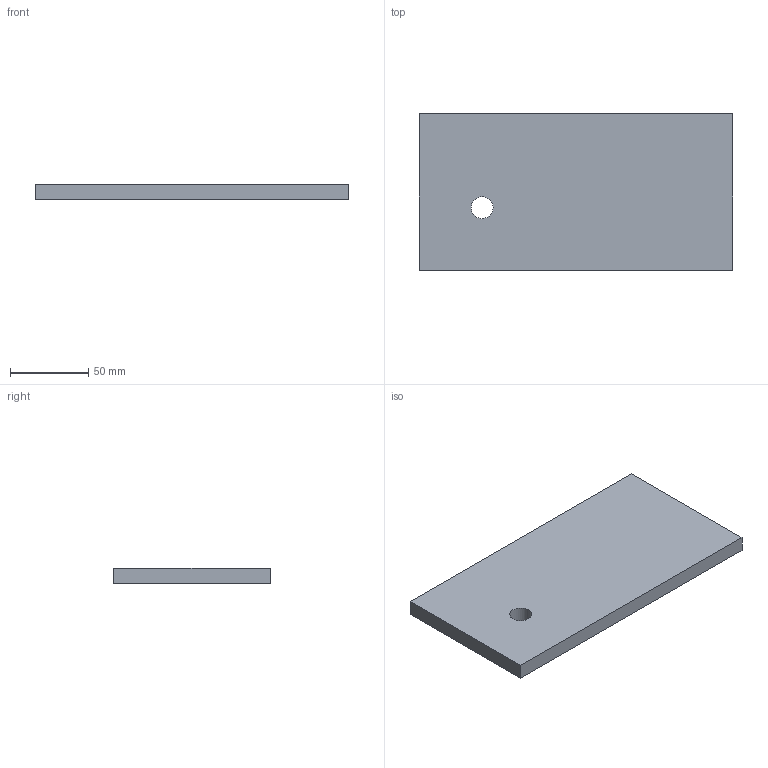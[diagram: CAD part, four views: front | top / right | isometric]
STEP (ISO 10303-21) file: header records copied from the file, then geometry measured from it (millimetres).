
FILE_DESCRIPTION(('Open CASCADE Model'),'2;1');
FILE_NAME('Open CASCADE Shape Model','2026-09-12T13:44:07',('Author'),( 'Open CASCADE'),'Open CASCADE STEP processor 7.9','Open CASCADE 7.9' ,'Unknown');
FILE_SCHEMA(('AUTOMOTIVE_DESIGN { 1 0 10303 214 1 1 1 1 }'));
Length unit declared in the file: millimetre
Products named in the file (1): Open CASCADE STEP translator 7.9 8
Bounding box: 200 x 100 x 10 mm (x, y, z)
Volume: 198460.6 mm3; surface area: 46131.9 mm2
Topology: 1 solids, 1 shells, 7 faces, 15 edges, 10 vertices
Faces by surface type: plane 6, cylinder 1
Full cylindrical faces by diameter (mm): 14 x1
Entity records: 400 total; most frequent: CARTESIAN_POINT 63, DIRECTION 63, LINE 41, VECTOR 41, ORIENTED_EDGE 30, PCURVE 30, DEFINITIONAL_REPRESENTATION 30, EDGE_CURVE 15
